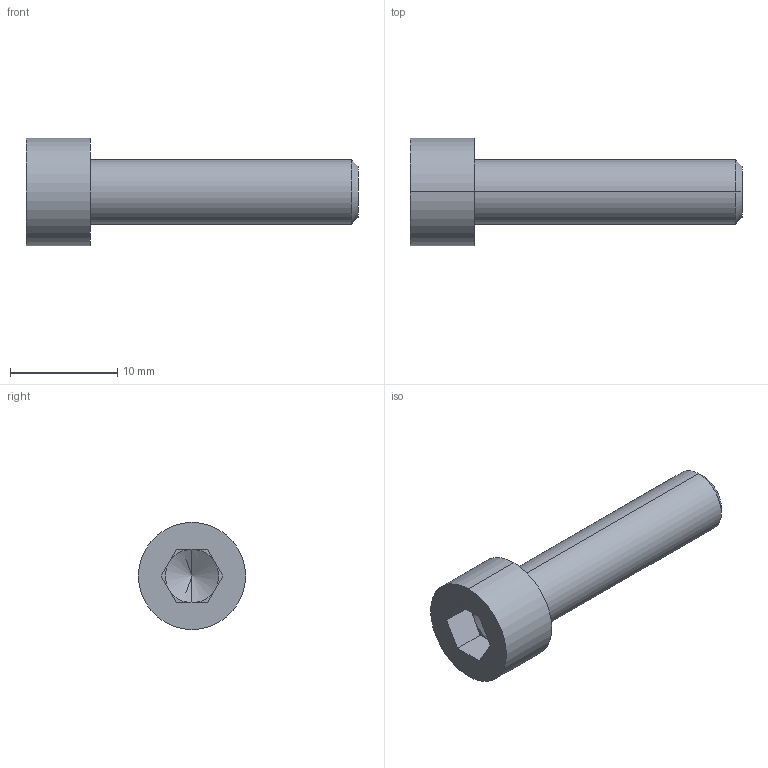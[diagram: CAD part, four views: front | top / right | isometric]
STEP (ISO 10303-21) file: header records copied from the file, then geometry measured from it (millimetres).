
FILE_DESCRIPTION (( 'STEP AP214' ), '1' );
FILE_NAME ('M6x25_DIN912.STEP', '2016-05-14T09:07:55', ( '' ), ( '' ), 'SwSTEP 2.0', 'SolidWorks 2014', '' );
FILE_SCHEMA (( 'AUTOMOTIVE_DESIGN' ));
Length unit declared in the file: millimetre
Products named in the file (1): M6x25_DIN912
Bounding box: 31 x 10 x 10 mm (x, y, z)
Volume: 1100.5 mm3; surface area: 864.5 mm2
Topology: 1 solids, 1 shells, 18 faces, 40 edges, 25 vertices
Faces by surface type: plane 10, cylinder 4, cone 4
Entity records: 718 total; most frequent: DIRECTION 88, CARTESIAN_POINT 82, ORIENTED_EDGE 76, EDGE_CURVE 38, AXIS2_PLACEMENT_3D 31, VECTOR 26, LINE 26, VERTEX_POINT 25
